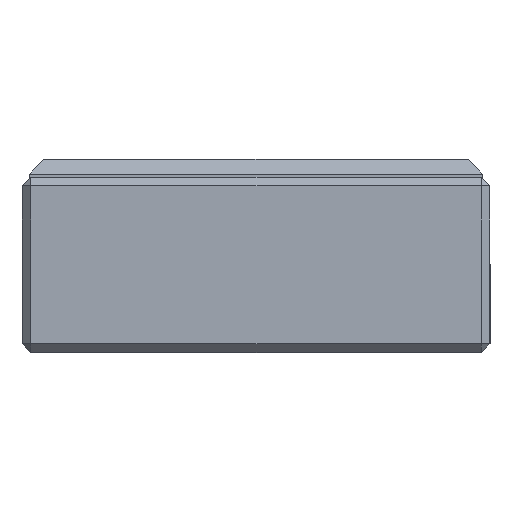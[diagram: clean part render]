
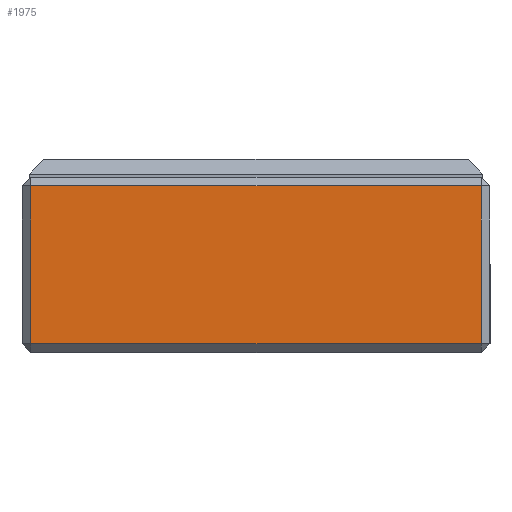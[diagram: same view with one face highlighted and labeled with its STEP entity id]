
A CAD part, left-side view. The second image highlights one B-rep face of the part: STEP entity #1975.
In plain terms, the highlighted planar face has unit normal (-1, 0, 0).
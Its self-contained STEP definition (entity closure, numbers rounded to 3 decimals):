
#1444 = VERTEX_POINT('',#1445);
#1445 = CARTESIAN_POINT('',(-1.6,1.57,0.03));
#1451 = EDGE_CURVE('',#1444,#1452,#1454,.T.);
#1452 = VERTEX_POINT('',#1453);
#1453 = CARTESIAN_POINT('',(-1.6,1.57,0.57));
#1454 = LINE('',#1455,#1456);
#1455 = CARTESIAN_POINT('',(-1.6,1.57,0.));
#1456 = VECTOR('',#1457,1.);
#1457 = DIRECTION('',(0.,0.,1.));
#1529 = EDGE_CURVE('',#1530,#1452,#1532,.T.);
#1530 = VERTEX_POINT('',#1531);
#1531 = CARTESIAN_POINT('',(-1.6,0.03,0.57));
#1532 = LINE('',#1533,#1534);
#1533 = CARTESIAN_POINT('',(-1.6,0.,0.57));
#1534 = VECTOR('',#1535,1.);
#1535 = DIRECTION('',(0.,1.,0.));
#1576 = VERTEX_POINT('',#1577);
#1577 = CARTESIAN_POINT('',(-1.6,0.03,0.03));
#1583 = EDGE_CURVE('',#1576,#1530,#1584,.T.);
#1584 = LINE('',#1585,#1586);
#1585 = CARTESIAN_POINT('',(-1.6,0.03,0.));
#1586 = VECTOR('',#1587,1.);
#1587 = DIRECTION('',(0.,0.,1.));
#1975 = ADVANCED_FACE('',(#1976),#1987,.F.);
#1976 = FACE_BOUND('',#1977,.F.);
#1977 = EDGE_LOOP('',(#1978,#1984,#1985,#1986));
#1978 = ORIENTED_EDGE('',*,*,#1979,.T.);
#1979 = EDGE_CURVE('',#1576,#1444,#1980,.T.);
#1980 = LINE('',#1981,#1982);
#1981 = CARTESIAN_POINT('',(-1.6,0.,0.03));
#1982 = VECTOR('',#1983,1.);
#1983 = DIRECTION('',(0.,1.,0.));
#1984 = ORIENTED_EDGE('',*,*,#1451,.T.);
#1985 = ORIENTED_EDGE('',*,*,#1529,.F.);
#1986 = ORIENTED_EDGE('',*,*,#1583,.F.);
#1987 = PLANE('',#1988);
#1988 = AXIS2_PLACEMENT_3D('',#1989,#1990,#1991);
#1989 = CARTESIAN_POINT('',(-1.6,0.,0.));
#1990 = DIRECTION('',(1.,0.,0.));
#1991 = DIRECTION('',(0.,0.,1.));
